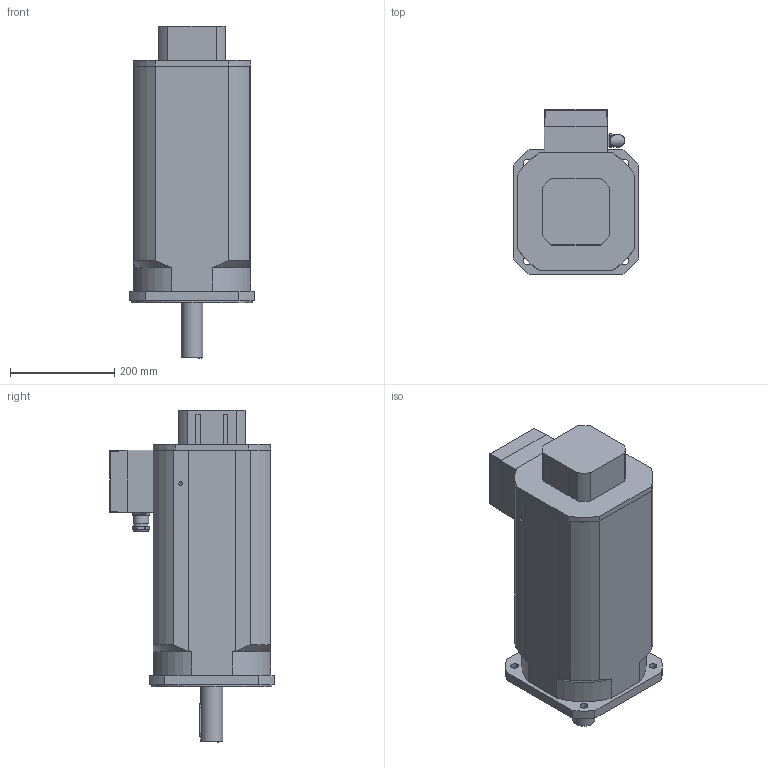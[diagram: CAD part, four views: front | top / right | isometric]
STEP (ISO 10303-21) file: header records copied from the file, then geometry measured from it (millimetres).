
FILE_DESCRIPTION(/* description */ ('Alibre Inc.'),/* implementation_level */ '2;1');
FILE_NAME(/* name */ 'export0',/* time_stamp */ '2011-11-01T10:18:31+01:00',/* author */ (''),/* organization */ (''),/* preprocessor_version */ 'ST-DEVELOPER v12',/* originating_system */ 'Alibre',/* authorisation */ '');
FILE_SCHEMA (('CONFIG_CONTROL_DESIGN'));
Length unit declared in the file: millimetre
Products named in the file (9): ID_1; ID_2
Bounding box: 240 x 316 x 636 mm (x, y, z)
Volume: 24195654.2 mm3; surface area: 759444.5 mm2
Topology: 8 solids, 8 shells, 275 faces, 708 edges, 460 vertices
Faces by surface type: plane 130, cylinder 111, torus 15, cone 14, bspline 5
Full cylindrical faces by diameter (mm): 2.7 x4, 6.647 x3, 10.106 x1, 15 x5, 20 x6, 22 x2, 25 x2, 26.75 x1, 30 x2, 42 x1, 45 x1, 230 x1
Entity records: 10347 total; most frequent: CARTESIAN_POINT 3067, ORIENTED_EDGE 1298, DIRECTION 1251, EDGE_CURVE 649, AXIS2_PLACEMENT_3D 539, VERTEX_POINT 447, EDGE_LOOP 350, FACE_BOUND 350
